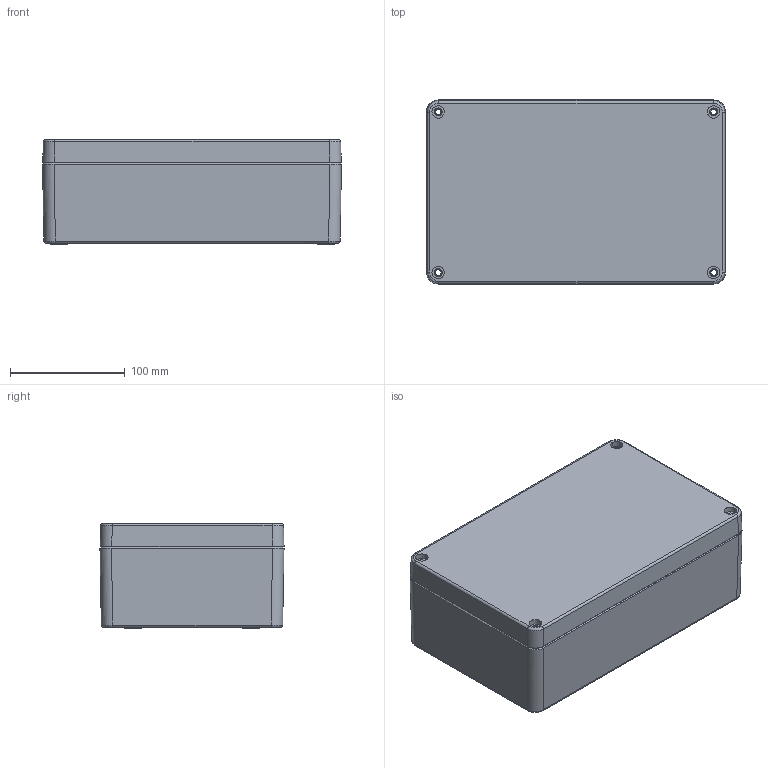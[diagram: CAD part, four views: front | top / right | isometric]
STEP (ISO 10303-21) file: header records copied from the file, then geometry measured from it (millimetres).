
FILE_DESCRIPTION (( 'STEP AP203' ), '1' );
FILE_NAME ('ALU ASSY 26016090.STEP', '2024-08-27T09:09:32', ( '' ), ( '' ), 'SwSTEP 2.0', 'SolidWorks 2018', '' );
FILE_SCHEMA (( 'CONFIG_CONTROL_DESIGN' ));
Products named in the file (3): ALU ASSY 26016090; ALU LID 26016090; ALU BASE 26016090
Assembly tree (2 placements, depth 2):
  ALU ASSY 26016090
    ALU BASE 26016090
    ALU LID 26016090
Bounding box: 260.34 x 160.36 x 91.35 mm (x, y, z)
Volume: 778068.3 mm3; surface area: 326118.8 mm2
Topology: 2 solids, 2 shells, 1742 faces, 4855 edges, 3211 vertices
Faces by surface type: plane 1016, bspline 363, cylinder 312, cone 51
Entity records: 77636 total; most frequent: CARTESIAN_POINT 36363, ORIENTED_EDGE 9682, DIRECTION 6453, EDGE_CURVE 4841, VERTEX_POINT 3211, VECTOR 3169, LINE 3169, EDGE_LOOP 1874
